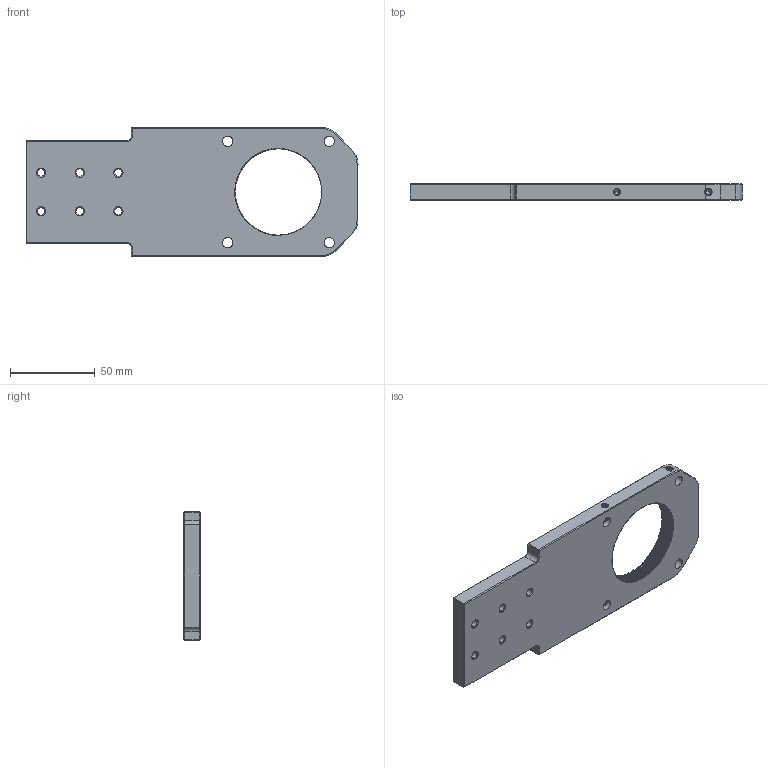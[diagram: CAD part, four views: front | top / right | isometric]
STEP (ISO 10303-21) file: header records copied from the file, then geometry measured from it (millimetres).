
FILE_DESCRIPTION((''),'2;1');
FILE_NAME('LMA95-SM2A','2026-07-24T17:46:22',('R&D'),(''),'CREO PARAMETRIC BY PTC INC, 2021063','CREO PARAMETRIC BY PTC INC, 2021063','');
FILE_SCHEMA(('CONFIG_CONTROL_DESIGN'));
Length unit declared in the file: millimetre
Products named in the file (1): LMA95-SM2A
Bounding box: 196.22 x 9.53 x 76.2 mm (x, y, z)
Volume: 107317.5 mm3; surface area: 32155.5 mm2
Topology: 1 solids, 1 shells, 412 faces, 1216 edges, 798 vertices
Faces by surface type: cylinder 154, bspline 150, cone 60, plane 40, extrusion 8
Entity records: 30191 total; most frequent: CARTESIAN_POINT 20852, ORIENTED_EDGE 2416, EDGE_CURVE 1208, DIRECTION 1186, VERTEX_POINT 798, B_SPLINE_CURVE_WITH_KNOTS 717, EDGE_LOOP 442, AXIS2_PLACEMENT_3D 425
